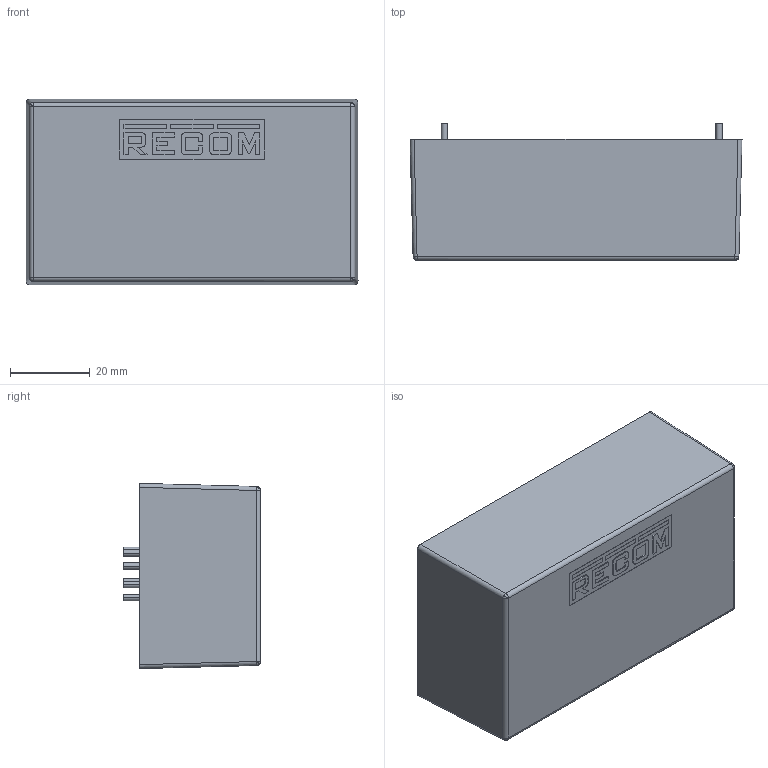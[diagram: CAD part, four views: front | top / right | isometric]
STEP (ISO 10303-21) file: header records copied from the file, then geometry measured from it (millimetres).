
FILE_DESCRIPTION (( 'STEP AP214' ), '1' );
FILE_NAME ('RAC25-SK_480_3D_20210628.stp', '2021-06-28T06:05:34', ( '' ), ( '' ), 'SwSTEP 2.0', 'SolidWorks 2019', '' );
FILE_SCHEMA (( 'AUTOMOTIVE_DESIGN' ));
Length unit declared in the file: millimetre
Products named in the file (1): RAC25-SK_480_3D_20210628
Bounding box: 83.23 x 34.4 x 46.43 mm (x, y, z)
Volume: 57263 mm3; surface area: 51984.6 mm2
Topology: 75 solids, 75 shells, 2556 faces, 6906 edges, 4474 vertices
Faces by surface type: cylinder 1063, plane 943, torus 430, bspline 67, cone 45, sphere 8
Entity records: 118771 total; most frequent: CARTESIAN_POINT 22798, DIRECTION 15221, ORIENTED_EDGE 13808, EDGE_CURVE 6904, AXIS2_PLACEMENT_3D 6154, VERTEX_POINT 4474, CIRCLE 3664, VECTOR 2913
